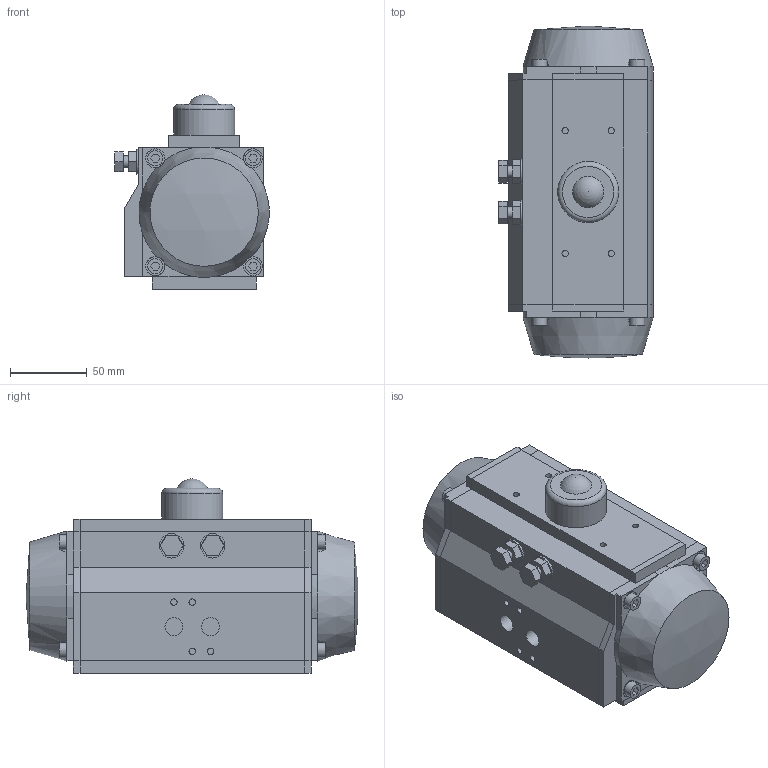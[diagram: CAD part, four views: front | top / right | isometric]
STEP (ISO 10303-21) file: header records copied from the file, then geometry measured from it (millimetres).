
FILE_DESCRIPTION((' '),'2;1');
FILE_NAME('N:\Technical Support\Private\Jomar Valve CAD\Actuation\JV\JV-70FusionCopy.stp','2017-05-26T09:40:08',(' '),(' '),' ','ACIS',' ');
FILE_SCHEMA(('CONFIG_CONTROL_DESIGN'));
Length unit declared in the file: inch
Products named in the file (22): N:\Technical Support\Private\Jomar Valve CAD\Actuation\JV\JV-70FusionCopy.stp; Body1; Body2; Body3; Body4; Body5; Body6; Body7; Body8; Body9; Body10; Body11; Body12; Body13; Body14; Body15; Body16; Body17; Body18; Body19; Body20; Body21
Assembly tree (21 placements, depth 2):
  N:\Technical Support\Private\Jomar Valve CAD\Actuation\JV\JV-70FusionCopy.stp
    Body1
    Body2
    Body3
    Body4
    Body5
    Body6
    Body7
    Body8
    Body9
    Body10
    Body11
    Body12
    Body13
    Body14
    Body15
    Body16
    Body17
    Body18
    Body19
    Body20
    Body21
Bounding box: 100.37 x 216.13 x 126.49 mm (x, y, z)
Volume: 1609184 mm3; surface area: 145763.7 mm2
Topology: 21 solids, 21 shells, 305 faces, 683 edges, 451 vertices
Faces by surface type: plane 154, bspline 116, cylinder 31, sphere 2, torus 1, cone 1
Full cylindrical faces by diameter (mm): 4.064 x2, 5.207 x1, 6 x2, 7.62 x1, 8 x2, 9.83 x4, 11.684 x2, 12.319 x4, 13.97 x1, 16.002 x1, 21.336 x1, 31.75 x2, 39.751 x1
Entity records: 11660 total; most frequent: CARTESIAN_POINT 2241, ORIENTED_EDGE 1238, DIRECTION 1212, EDGE_CURVE 619, VECTOR 474, LINE 474, VERTEX_POINT 435, EDGE_LOOP 384
